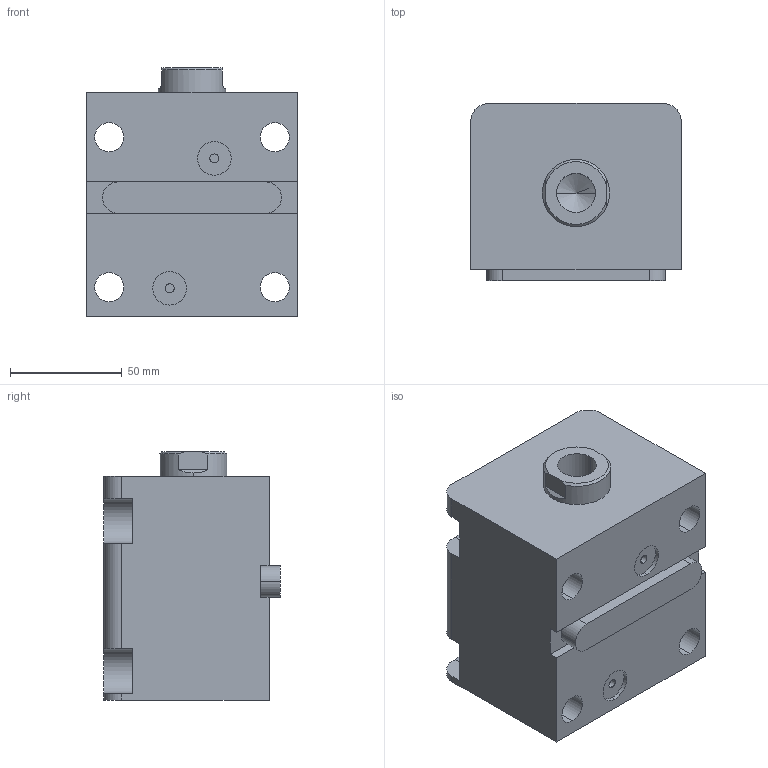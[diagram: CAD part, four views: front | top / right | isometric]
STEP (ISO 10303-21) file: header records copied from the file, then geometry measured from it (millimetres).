
FILE_DESCRIPTION (( 'STEP AP203' ), '1' );
FILE_NAME ('HTB-LAM50-40N.STEP', '2023-03-20T00:52:51', ( '微软用户' ), ( '微软中国' ), 'SwSTEP 2.0', 'SolidWorks 2012', '' );
FILE_SCHEMA (( 'CONFIG_CONTROL_DESIGN' ));
Length unit declared in the file: millimetre
Products named in the file (4): HTB-LAM50-40N; HTB-LWM50-瑩; HTB-LAM50-40N活塞杆; HTB-LAM50-40掛极
Assembly tree (3 placements, depth 2):
  HTB-LAM50-40N
    HTB-LAM50-40掛极
    HTB-LAM50-40N活塞杆
    HTB-LWM50-瑩
Bounding box: 94 x 79 x 111 mm (x, y, z)
Volume: 597157.4 mm3; surface area: 93050 mm2
Topology: 3 solids, 3 shells, 86 faces, 213 edges, 139 vertices
Faces by surface type: cylinder 39, plane 39, torus 4, cone 4
Entity records: 3001 total; most frequent: DIRECTION 475, CARTESIAN_POINT 470, ORIENTED_EDGE 422, EDGE_CURVE 211, AXIS2_PLACEMENT_3D 180, VERTEX_POINT 139, LINE 115, VECTOR 115
